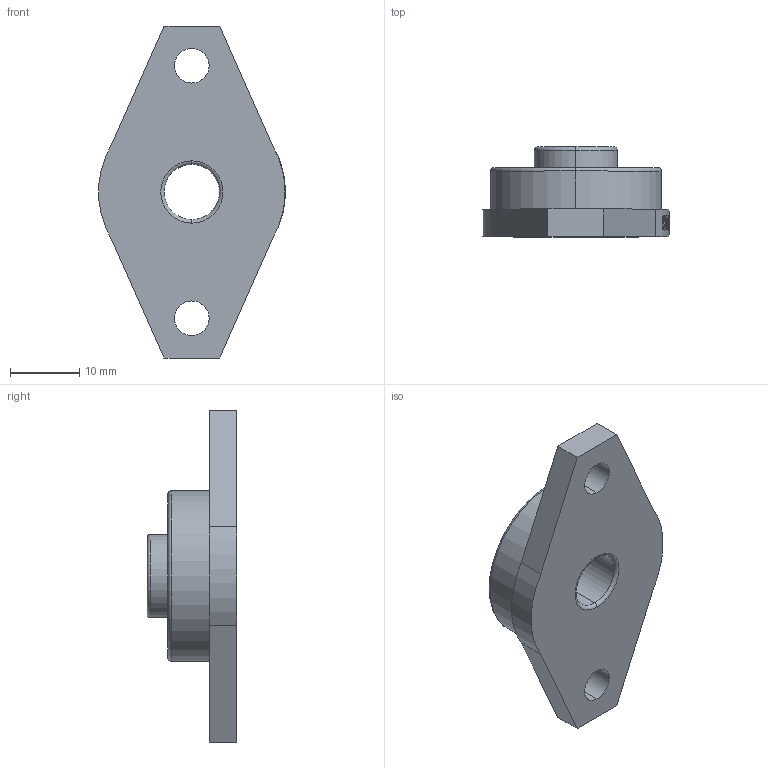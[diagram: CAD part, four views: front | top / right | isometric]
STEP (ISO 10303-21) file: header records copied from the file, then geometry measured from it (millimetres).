
FILE_DESCRIPTION (( 'STEP AP214' ), '1' );
FILE_NAME ('8.STEP', '2017-08-14T11:03:37', ( '' ), ( '' ), 'SwSTEP 2.0', 'SolidWorks 2014', '' );
FILE_SCHEMA (( 'AUTOMOTIVE_DESIGN' ));
Length unit declared in the file: millimetre
Products named in the file (1): 8
Bounding box: 26.96 x 13 x 48 mm (x, y, z)
Volume: 4652.6 mm3; surface area: 3688.7 mm2
Topology: 1 solids, 1 shells, 119 faces, 311 edges, 204 vertices
Faces by surface type: plane 56, bspline 32, cylinder 21, torus 10
Entity records: 7233 total; most frequent: CARTESIAN_POINT 4497, ORIENTED_EDGE 622, DIRECTION 458, EDGE_CURVE 311, VERTEX_POINT 204, AXIS2_PLACEMENT_3D 174, EDGE_LOOP 135, ADVANCED_FACE 119
